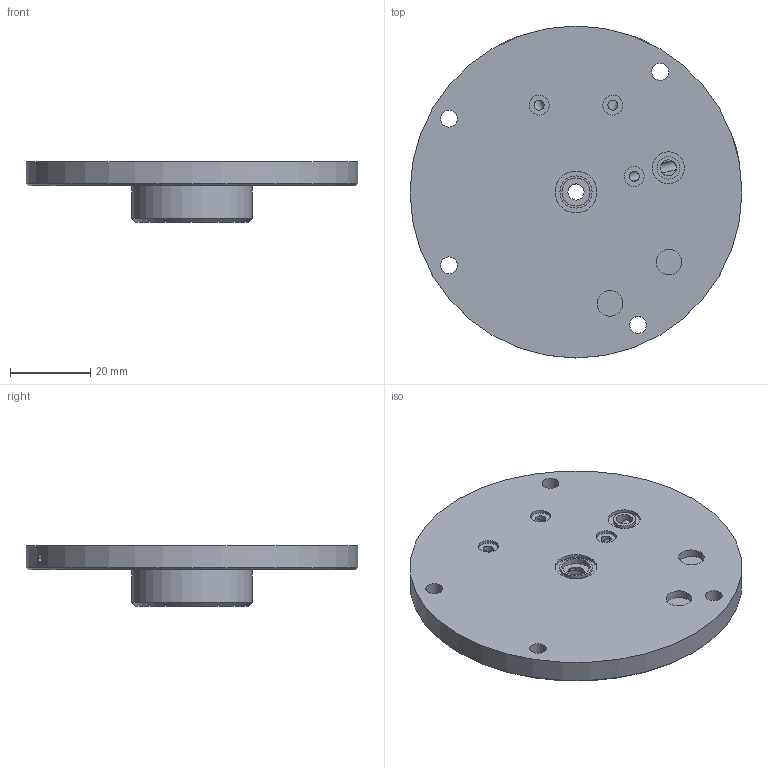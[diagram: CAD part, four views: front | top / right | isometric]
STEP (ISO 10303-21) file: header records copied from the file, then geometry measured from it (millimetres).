
FILE_DESCRIPTION(('STEP AP203'),'1');
FILE_NAME('SGE-G1-B.stp','2024-05-28T06:31:33',(' '),(' '),'Spatial InterOp 3D',' ',' ');
FILE_SCHEMA(('CONFIG_CONTROL_DESIGN'));
Length unit declared in the file: millimetre
Products named in the file (1): 1
Bounding box: 82.6 x 82.6 x 15 mm (x, y, z)
Volume: 36335.3 mm3; surface area: 14454.6 mm2
Topology: 1 solids, 1 shells, 87 faces, 203 edges, 136 vertices
Faces by surface type: plane 49, cylinder 32, cone 6
Full cylindrical faces by diameter (mm): 2.5 x9, 4 x2, 4.2 x4, 5 x3, 5.6 x1, 6.4 x2, 7 x1, 7.6 x4, 8 x2, 8.5 x1, 10.4 x1, 30 x1, 82.6 x1
Entity records: 2516 total; most frequent: CARTESIAN_POINT 714, DIRECTION 370, ORIENTED_EDGE 280, EDGE_LOOP 161, AXIS2_PLACEMENT_3D 158, EDGE_CURVE 140, FACE_OUTER_BOUND 119, VERTEX_POINT 114
